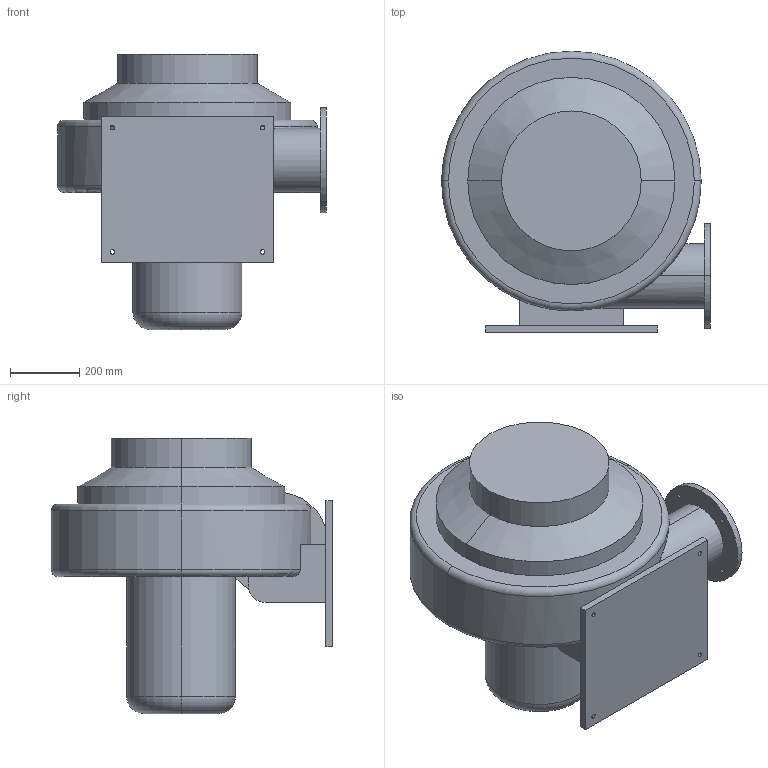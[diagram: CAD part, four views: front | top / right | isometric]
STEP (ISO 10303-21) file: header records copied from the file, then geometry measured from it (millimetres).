
FILE_DESCRIPTION (( 'STEP AP203' ), '1' );
FILE_NAME ('11000-200-2.STEP', '2019-05-09T03:27:02', ( 'User' ), ( 'www.dadighost.com' ), 'SwSTEP 2.0', 'SolidWorks 2014', '' );
FILE_SCHEMA (( 'CONFIG_CONTROL_DESIGN' ));
Length unit declared in the file: millimetre
Products named in the file (1): 11000-200-2
Bounding box: 779 x 815 x 797 mm (x, y, z)
Volume: 171248717.3 mm3; surface area: 2707959.2 mm2
Topology: 1 solids, 1 shells, 63 faces, 156 edges, 100 vertices
Faces by surface type: cylinder 33, plane 19, torus 9, cone 2
Entity records: 2380 total; most frequent: CARTESIAN_POINT 722, DIRECTION 351, ORIENTED_EDGE 312, EDGE_CURVE 156, AXIS2_PLACEMENT_3D 143, VERTEX_POINT 100, EDGE_LOOP 84, CIRCLE 79
